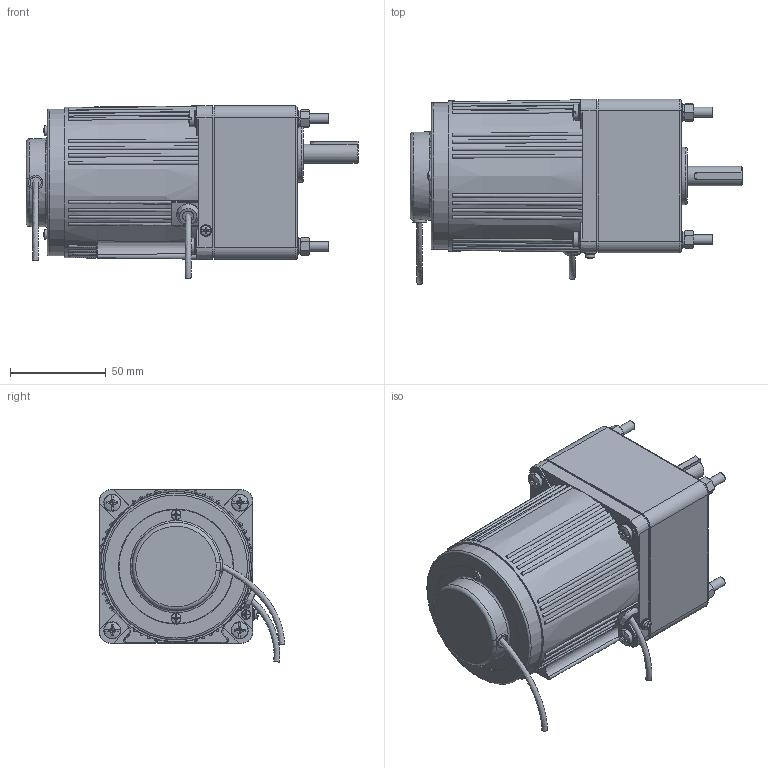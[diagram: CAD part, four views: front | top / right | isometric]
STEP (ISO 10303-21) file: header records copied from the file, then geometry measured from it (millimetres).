
FILE_DESCRIPTION(/* description */ (''),/* implementation_level */ '2;1');
FILE_NAME(/* name */ '4RK25-30CC·R-4GN25-750K-C·10T.stp',/* time_stamp */ '2024-11-02T14:49:50+08:00',/* author */ (''),/* organization */ (''),/* preprocessor_version */ 'ST-DEVELOPER v18.102',/* originating_system */ 'SIEMENS PLM Software NX 2027',/* authorisation */ '');
FILE_SCHEMA (('AP203_CONFIGURATION_CONTROLLED_3D_DESIGN_OF_MECHANICAL_PARTS_AND_ASSEMBLIES_MIM_LF { 1 0 10303 403 2 1 2}'));
Length unit declared in the file: millimetre
Products named in the file (1): 4RK25-30CC-4GN25-750K-C·10T_stp_objects
Bounding box: 173 x 96.6 x 89.85 mm (x, y, z)
Volume: 732797.2 mm3; surface area: 89788.1 mm2
Topology: 21 solids, 21 shells, 964 faces, 2448 edges, 1580 vertices
Faces by surface type: plane 334, bspline 278, cylinder 160, cone 124, torus 50, sphere 18
Full cylindrical faces by diameter (mm): 2.6 x1, 2.7 x1, 3.2 x1, 4 x1, 4.351 x4, 4.4 x1, 4.6 x4, 5 x5, 5.1 x3, 5.3 x8, 5.8 x1, 6 x10, 6.5 x4, 7.4 x1, 8.2 x1, 8.5 x4, 9 x8, 10 x1, 10.5 x1, 19 x1, 26 x1, 30 x1, 46 x1, 56 x1, 59.5 x1, 60 x1, 67 x1, 73 x1, 75 x2, 76.5 x1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
Entity records: 36871 total; most frequent: CARTESIAN_POINT 16305, ORIENTED_EDGE 4508, DIRECTION 2948, EDGE_CURVE 2254, VERTEX_POINT 1517, AXIS2_PLACEMENT_3D 1243, B_SPLINE_CURVE_WITH_KNOTS 1230, EDGE_LOOP 1188
